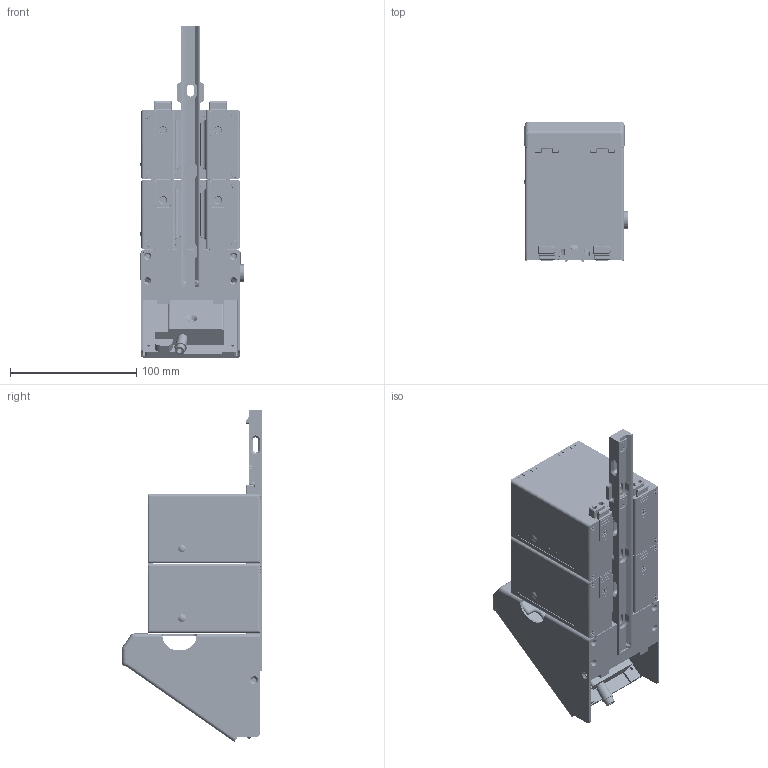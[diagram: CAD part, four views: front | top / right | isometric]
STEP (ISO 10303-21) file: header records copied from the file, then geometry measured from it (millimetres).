
FILE_DESCRIPTION (( 'STEP AP214' ), '1' );
FILE_NAME ('LGX 2X Baserunner Dock.STEP', '2025-11-04T01:06:54', ( '' ), ( '' ), 'SwSTEP 2.0', 'SolidWorks 2021', '' );
FILE_SCHEMA (( 'AUTOMOTIVE_DESIGN' ));
Length unit declared in the file: millimetre
Products named in the file (22): LGX-Encl_Extrusion Profile; LGX_TLock; LG10X-Top_InjectionMolding; XT60M; LGX-BRcap R0; LGX-BRSink_Rev1; LGX 2X Baserunner Dock; LXG Single Module_B2 Rear Locked; LGX-Latch; ST3 Plug; LGX-Ovl; LGX-Rail_Rail x3; LGX-Base_InjectionMolded; M3 Screw_M3x18; M3 Screw_M3x12; XT60F; V5BRL10_Ref; LGX Cell Assembly; LXG Single Module_B2 Front Locked; LGX-Dock R3_Dock Only; M3 Screw_M3x5; LGX-BRshell R1_R2
Assembly tree (65 placements, depth 4):
  LGX 2X Baserunner Dock
    LGX-Rail_Rail x3
    LGX-Dock R3_Dock Only
    XT60F  x2
    LGX-BRshell R1_R2
    LGX-BRSink_Rev1
    V5BRL10_Ref
    LXG Single Module_B2 Front Locked
      LG10X-Top_InjectionMolding
      LGX-Encl_Extrusion Profile
      LGX-Base_InjectionMolded
      LGX Cell Assembly
        XT60F  x2
        XT60M  x2
      LGX-Latch  x2
      LGX-Ovl
      LGX_TLock  x4
      M3 Screw_M3x18  x4
      M3 Screw_M3x5  x2
      M3 Screw_M3x12  x8
    LXG Single Module_B2 Rear Locked
      LG10X-Top_InjectionMolding
      LGX-Encl_Extrusion Profile
      LGX-Base_InjectionMolded
      LGX Cell Assembly
        XT60F  x2
        XT60M  x2
      LGX-Latch  x2
      LGX-Ovl
      LGX_TLock  x4
      M3 Screw_M3x18  x4
      M3 Screw_M3x5  x2
      M3 Screw_M3x12  x8
    ST3 Plug
    LGX-BRcap R0
Bounding box: 81.9 x 111.11 x 262.52 mm (x, y, z)
Volume: 365372.9 mm3; surface area: 297818.2 mm2
Topology: 99 solids, 100 shells, 9403 faces, 23271 edges, 13923 vertices
Faces by surface type: cylinder 3226, plane 2533, bspline 2106, torus 985, cone 516, sphere 37
Entity records: 147613 total; most frequent: CARTESIAN_POINT 47161, ORIENTED_EDGE 21382, DIRECTION 19275, EDGE_CURVE 10691, AXIS2_PLACEMENT_3D 7380, VERTEX_POINT 6496, EDGE_LOOP 4555, VECTOR 4515
